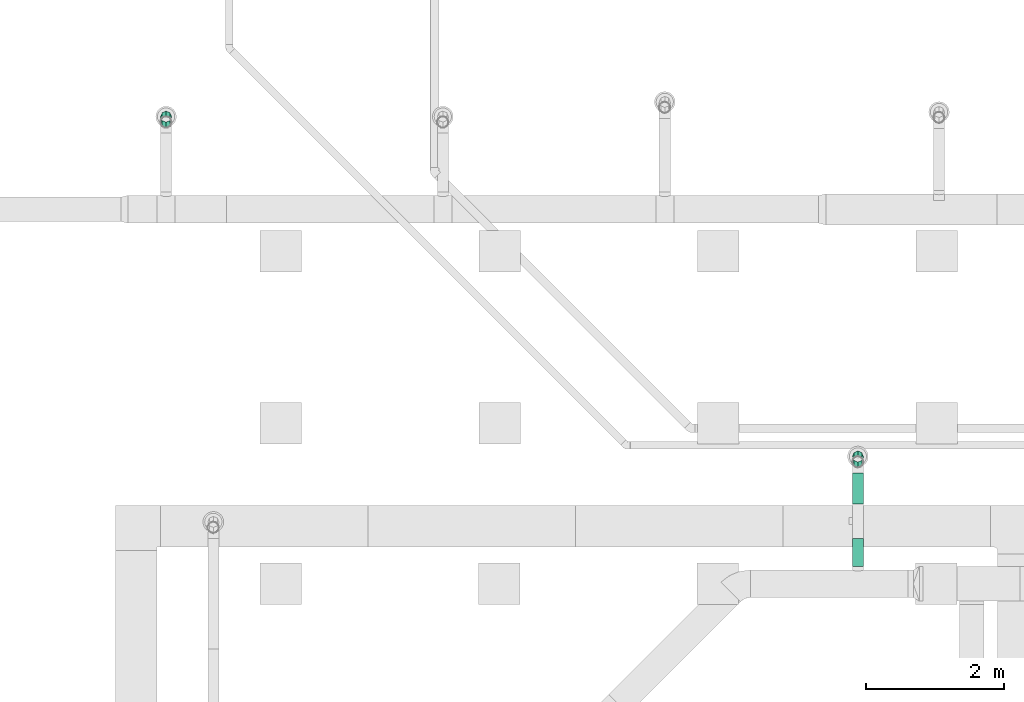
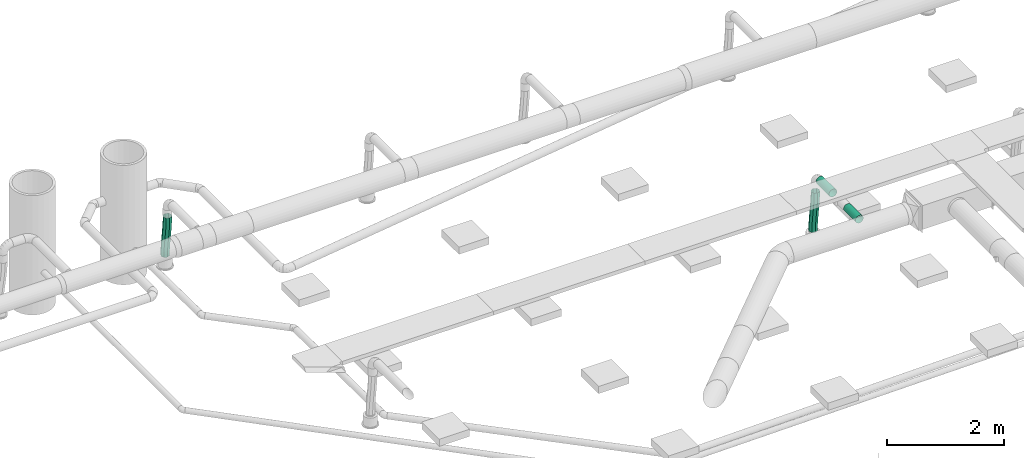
# One storey, part 306 of 374: 4 flow segments.
"""IFC2X3 building model written with IfcOpenShell, lengths in metres."""

from ifc_helpers import new_model, si_unit, direction, origin, place, context, subcontext, project, spatial, open_shell, surface_model, source, transform, mapped, element, save


model = new_model("IFC2X3")

# Units and contexts
model_context = context("Model", 3, precision=1e-05, world=origin(), true_north=direction((-0.4480736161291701, 0.8939966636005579)))
body_context = subcontext(model_context, "Body", "Model", "MODEL_VIEW")
ifc_project = project(units=[si_unit("LENGTHUNIT", "METRE"), si_unit("AREAUNIT", "SQUARE_METRE"), si_unit("VOLUMEUNIT", "CUBIC_METRE"), si_unit("PLANEANGLEUNIT", "RADIAN"), si_unit("THERMODYNAMICTEMPERATUREUNIT", "KELVIN"), si_unit("MASSUNIT", "GRAM", prefix="KILO"), si_unit("TIMEUNIT", "SECOND")], contexts=[model_context])

# Site, building, storey
site_placement = place(None, origin())
site = spatial("IfcSite", under=ifc_project, at=site_placement, Name="Site 1", CompositionType="ELEMENT")
building_placement = place(site_placement, origin())
building = spatial("IfcBuilding", under=site, at=building_placement, Name="Undefined", CompositionType="ELEMENT")
storey_placement = place(building_placement, origin())
storey = spatial("IfcBuildingStorey", under=building, at=storey_placement, Name="Rez de chauss\x8ee", CompositionType="ELEMENT", Elevation=0.0)

# Flow segments
shared_shape_1 = source(origin(), body_context, "Body", "SurfaceModel", [
    surface_model("IfcFaceBasedSurfaceModel", [(0.0, 0.020884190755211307, 0.0), (0.0, 0.0, 0.0), (0.4065297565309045, 0.0, 1.776356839e-15), (0.4065297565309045, 0.020884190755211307, 1.776356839e-15), (0.0, -0.020172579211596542, -0.005405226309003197), (0.4065297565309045, -0.020172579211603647, -0.005405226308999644), (0.0, -0.03825881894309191, -0.015847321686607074), (0.4065297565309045, -0.03825881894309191, -0.015847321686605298), (0.0, -0.05302617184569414, -0.0306146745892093), (0.4065297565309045, -0.05302617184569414, -0.030614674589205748), (0.0, -0.06346826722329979, -0.04870091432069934), (0.4065297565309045, -0.06346826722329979, -0.04870091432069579), (0.0, -0.06887349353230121, -0.06887349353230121), (0.4065297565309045, -0.06887349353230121, -0.06887349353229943), (0.0, -0.06887349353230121, -0.08975768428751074), (0.4065297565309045, -0.06887349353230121, -0.08975768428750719), (0.0, -0.06346826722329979, -0.10993026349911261), (0.4065297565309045, -0.06346826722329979, -0.10993026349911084), (0.0, -0.05302617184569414, -0.12801650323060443), (0.4065297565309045, -0.05302617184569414, -0.12801650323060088), (0.0, -0.038258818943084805, -0.14278385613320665), (0.4065297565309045, -0.03825881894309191, -0.14278385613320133), (0.0, -0.020172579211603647, -0.15322595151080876), (0.4065297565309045, -0.020172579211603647, -0.1532259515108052), (0.0, 7.105427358e-15, -0.15863117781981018), (0.4065297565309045, 0.0, -0.1586311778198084), (0.0, 0.020884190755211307, -0.15863117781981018), (0.4065297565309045, 0.020884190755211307, -0.1586311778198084), (0.0, 0.04105676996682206, -0.15322595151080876), (0.4065297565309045, 0.04105676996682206, -0.15322595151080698), (0.0, 0.05914300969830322, -0.1427838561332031), (0.4065297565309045, 0.05914300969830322, -0.1427838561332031), (0.0, 0.07391036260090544, -0.12801650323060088), (0.4065297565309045, 0.07391036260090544, -0.12801650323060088), (0.0, 0.0843524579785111, -0.10993026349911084), (0.4065297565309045, 0.08435245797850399, -0.10993026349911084), (0.0, 0.08975768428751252, -0.08975768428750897), (0.4065297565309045, 0.08975768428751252, -0.08975768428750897), (0.0, 0.08975768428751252, -0.06887349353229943), (0.4065297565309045, 0.08975768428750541, -0.06887349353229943), (0.0, 0.0843524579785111, -0.048700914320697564), (0.4065297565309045, 0.0843524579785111, -0.04870091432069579), (0.0, 0.07391036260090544, -0.030614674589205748), (0.4065297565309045, 0.07391036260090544, -0.030614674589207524), (0.0, 0.05914300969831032, -0.015847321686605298), (0.4065297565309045, 0.05914300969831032, -0.015847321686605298), (0.0, 0.04105676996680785, -0.005405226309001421), (0.4065297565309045, 0.041056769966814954, -0.005405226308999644)], [open_shell([[[0, 1, 2, 3]], [[1, 4, 5, 2]], [[4, 6, 7, 5]], [[6, 8, 9, 7]], [[8, 10, 11, 9]], [[10, 12, 13, 11]], [[12, 14, 15, 13]], [[14, 16, 17, 15]], [[16, 18, 19, 17]], [[18, 20, 21, 19]], [[20, 22, 23, 21]], [[22, 24, 25, 23]], [[24, 26, 27, 25]], [[26, 28, 29, 27]], [[28, 30, 31, 29]], [[30, 32, 33, 31]], [[32, 34, 35, 33]], [[34, 36, 37, 35]], [[36, 38, 39, 37]], [[38, 40, 41, 39]], [[40, 42, 43, 41]], [[42, 44, 45, 43]], [[44, 46, 47, 45]], [[46, 0, 3, 47]]])]),
])
flow_segment_1_placement = place(storey_placement, origin())
element("IfcFlowSegment", 1, at=flow_segment_1_placement, inside=storey, Name="Tube", ObjectType="Tube", context=body_context, shape_type="MappedRepresentation", body=[
    mapped(shared_shape_1, transform((44.313405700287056, 15.363573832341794, 3.877274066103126), x_axis=(0.0, 1.0, 0.0), y_axis=(-0.9914448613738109, 0.0, 0.1305261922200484), z_axis=(0.1305261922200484, 0.0, 0.9914448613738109))),
])
shared_shape_2 = source(origin(), body_context, "Body", "SurfaceModel", [
    surface_model("IfcFaceBasedSurfaceModel", [(0.09425708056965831, -3.552713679e-15, 0.0), (0.053566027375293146, 0.04575228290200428, 0.0), (0.0, 0.0, 0.0), (0.038940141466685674, -0.047251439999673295, -1.1507285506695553e-06), (-0.05541274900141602, -0.04404152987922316, 0.0010358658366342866), (-0.017993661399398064, -0.09250640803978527, 0.0010617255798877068), (-0.1124330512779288, -0.0867909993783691, 0.002911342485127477), (-0.07622095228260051, -0.13616419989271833, 0.002975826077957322), (-0.17075715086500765, -0.12862218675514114, 0.005426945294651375), (-0.13541835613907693, -0.178624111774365, 0.005528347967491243), (-0.23007333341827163, -0.16991458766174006, 0.008379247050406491), (-0.19526249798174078, -0.22028543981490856, 0.008506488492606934), (-0.2900642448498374, -0.21105506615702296, 0.011560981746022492), (-0.2554300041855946, -0.2615474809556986, 0.01169744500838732), (-0.3504083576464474, -0.2524386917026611, 0.014761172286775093), (-0.3155975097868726, -0.3028095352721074, 0.014888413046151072), (-0.41078046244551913, -0.29446897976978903, 0.017765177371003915), (-0.37544165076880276, -0.3444708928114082, 0.017866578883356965), (-0.470851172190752, -0.3375576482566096, 0.020354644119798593), (-0.4346390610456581, -0.38693083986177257, 0.020419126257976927), (-0.5302854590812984, -0.3821237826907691, 0.022307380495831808), (-0.4928663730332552, -0.4305886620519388, 0.022333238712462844), (-0.5887403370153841, -0.42859218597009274, 0.023397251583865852), (-0.5498002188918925, -0.4758436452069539, 0.0233960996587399), (-0.6458082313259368, -0.4773427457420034, 0.023394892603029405), (-0.6051172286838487, -0.5230950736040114, 0.023394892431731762), (0.02506154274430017, 0.0783427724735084, -0.04329419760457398), (-0.02777923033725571, 0.03321146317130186, -0.04329372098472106), (-0.08256193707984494, -0.010327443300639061, -0.042269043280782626), (-0.13908228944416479, -0.05270067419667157, -0.04040956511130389), (-0.19704465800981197, -0.09427143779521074, -0.03790925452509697), (-0.2561421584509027, -0.13541102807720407, -0.03496765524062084), (-0.3160599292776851, -0.17650115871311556, -0.03178973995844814), (-0.37647720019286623, -0.21793514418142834, -0.028585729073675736), (-0.43706799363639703, -0.26011824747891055, -0.025571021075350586), (-0.49750042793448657, -0.3034673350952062, -0.02296626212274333), (-0.5574346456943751, -0.34840969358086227, -0.020997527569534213), (-0.6165195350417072, -0.3953806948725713, -0.019896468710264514), (-0.6743126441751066, -0.44475219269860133, -0.01989930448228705), (0.02544116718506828, 0.07868040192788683, -0.10452143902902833), (-0.028124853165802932, 0.03292812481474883, -0.10452143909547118), (-0.08353759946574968, -0.011113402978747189, -0.10348557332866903), (-0.1405579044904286, -0.0538628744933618, -0.10161009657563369), (-0.19888201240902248, -0.09569406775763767, -0.09909449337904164), (-0.2581982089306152, -0.13698647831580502, -0.09614219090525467), (-0.3181891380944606, -0.1781269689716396, -0.09296045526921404), (-0.3785332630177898, -0.21951060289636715, -0.08976026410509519), (-0.438905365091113, -0.26154088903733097, -0.0867562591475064), (-0.4989760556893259, -0.3046295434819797, -0.08416679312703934), (-0.5584103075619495, -0.34919565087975, -0.08221405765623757), (-0.6168651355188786, -0.3956640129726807, -0.08112418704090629), (-0.673932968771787, -0.44441451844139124, -0.08112654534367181), (0.05448252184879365, 0.04656739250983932, -0.1478156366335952), (-0.0008344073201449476, -0.0006840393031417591, -0.14781678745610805), (-0.05776820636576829, -0.045939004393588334, -0.146753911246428), (-0.11599550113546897, -0.08959679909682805, -0.14483981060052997), (-0.17519291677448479, -0.13205671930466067, -0.1422872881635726), (-0.23503707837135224, -0.17371806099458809, -0.1393091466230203), (-0.29520460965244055, -0.21498011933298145, -0.13611818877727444), (-0.35537213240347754, -0.2562421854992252, -0.13292721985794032), (-0.4152162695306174, -0.2979035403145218, -0.12994905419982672), (-0.4744136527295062, -0.34036346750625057, -0.1273965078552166), (-0.5326409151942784, -0.3840212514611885, -0.12548239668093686), (-0.5895746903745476, -0.4292761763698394, -0.12441953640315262), (-0.6448916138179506, -0.4765275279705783, -0.12442074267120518), (0.09517357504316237, 0.0008151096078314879, -0.1478156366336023), (0.03810573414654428, -0.0479354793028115, -0.14781793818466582), (-0.02034911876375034, -0.09440388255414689, -0.14672805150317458), (-0.07978340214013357, -0.1389699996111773, -0.14477532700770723), (-0.13985412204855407, -0.18205864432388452, -0.14218588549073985), (-0.20022624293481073, -0.2240889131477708, -0.13918190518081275), (-0.2605703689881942, -0.26547253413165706, -0.13598172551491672), (-0.32056128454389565, -0.3066130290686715, -0.13279997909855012), (-0.37987745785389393, -0.347905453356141, -0.12984765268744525), (-0.4382015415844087, -0.38973665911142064, -0.12733202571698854), (-0.4952218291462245, -0.4324861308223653, -0.1254565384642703), (-0.5506345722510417, -0.47652763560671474, -0.12442068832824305), (-0.6042006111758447, -0.5222798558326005, -0.12442074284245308), (0.1236780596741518, -0.03177537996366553, -0.10452143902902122), (0.06588496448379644, -0.08114694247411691, -0.10452421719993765), (0.006800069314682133, -0.1281179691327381, -0.10342314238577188), (-0.053134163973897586, -0.17306032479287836, -0.10145441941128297), (-0.1135666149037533, -0.21640939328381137, -0.0988496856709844), (-0.17415741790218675, -0.25859247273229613, -0.09583500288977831), (-0.23457468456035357, -0.300026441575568, -0.09263100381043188), (-0.2944924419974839, -0.34111657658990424, -0.0894530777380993), (-0.35358992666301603, -0.38225618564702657, -0.08651145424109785), (-0.41155228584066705, -0.42382697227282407, -0.08401111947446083), (-0.4680726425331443, -0.4662002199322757, -0.08215163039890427), (-0.5228553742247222, -0.5097391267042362, -0.08112696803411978), (-0.575696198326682, -0.5548704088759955, -0.08112654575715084), (0.12329843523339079, -0.032113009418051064, -0.04329419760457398), (0.06623058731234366, -0.08086360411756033, -0.04329649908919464), (0.007775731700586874, -0.12733200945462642, -0.04220661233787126), (-0.05165854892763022, -0.17189812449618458, -0.04025388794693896), (-0.11172926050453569, -0.214986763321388, -0.03766444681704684), (-0.17210136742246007, -0.25701702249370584, -0.03466046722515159), (-0.23244547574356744, -0.298400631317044, -0.03146028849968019), (-0.2924363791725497, -0.3395411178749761, -0.028278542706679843), (-0.3517525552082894, -0.3808335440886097, -0.025326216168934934), (-0.4100766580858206, -0.42266476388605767, -0.022810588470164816), (-0.4670969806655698, -0.465414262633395, -0.02093510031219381), (-0.5225097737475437, -0.5094558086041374, -0.019899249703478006), (-0.5760758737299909, -0.5552080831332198, -0.01989930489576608)], [open_shell([[[0, 1, 2]], [[2, 3, 0]], [[3, 2, 4]], [[4, 5, 3]], [[5, 4, 6]], [[6, 7, 5]], [[7, 6, 8]], [[8, 9, 7]], [[9, 8, 10]], [[10, 11, 9]], [[11, 10, 12]], [[12, 13, 11]], [[13, 12, 14]], [[14, 15, 13]], [[15, 14, 16]], [[16, 17, 15]], [[17, 16, 18]], [[18, 19, 17]], [[19, 18, 20]], [[20, 21, 19]], [[21, 20, 22]], [[22, 23, 21]], [[23, 22, 24]], [[24, 25, 23]], [[1, 26, 27]], [[27, 2, 1]], [[2, 27, 28]], [[28, 4, 2]], [[4, 28, 29]], [[29, 6, 4]], [[6, 29, 30]], [[30, 8, 6]], [[8, 30, 31]], [[31, 10, 8]], [[10, 31, 32]], [[32, 12, 10]], [[12, 32, 33]], [[33, 14, 12]], [[14, 33, 34]], [[34, 16, 14]], [[16, 34, 35]], [[35, 18, 16]], [[18, 35, 36]], [[36, 20, 18]], [[20, 36, 37]], [[37, 22, 20]], [[22, 37, 38]], [[38, 24, 22]], [[26, 39, 40]], [[40, 27, 26]], [[27, 40, 41]], [[41, 28, 27]], [[28, 41, 42]], [[42, 29, 28]], [[29, 42, 43]], [[43, 30, 29]], [[30, 43, 44]], [[44, 31, 30]], [[31, 44, 45]], [[45, 32, 31]], [[32, 45, 46]], [[46, 33, 32]], [[33, 46, 47]], [[47, 34, 33]], [[34, 47, 48]], [[48, 35, 34]], [[35, 48, 49]], [[49, 36, 35]], [[36, 49, 50]], [[50, 37, 36]], [[37, 50, 51]], [[51, 38, 37]], [[39, 52, 53]], [[53, 40, 39]], [[40, 53, 54]], [[54, 41, 40]], [[41, 54, 55]], [[55, 42, 41]], [[42, 55, 56]], [[56, 43, 42]], [[43, 56, 57]], [[57, 44, 43]], [[44, 57, 58]], [[58, 45, 44]], [[45, 58, 59]], [[59, 46, 45]], [[46, 59, 60]], [[60, 47, 46]], [[47, 60, 61]], [[61, 48, 47]], [[48, 61, 62]], [[62, 49, 48]], [[49, 62, 63]], [[63, 50, 49]], [[50, 63, 64]], [[64, 51, 50]], [[52, 65, 66]], [[66, 53, 52]], [[53, 66, 67]], [[67, 54, 53]], [[54, 67, 68]], [[68, 55, 54]], [[55, 68, 69]], [[69, 56, 55]], [[56, 69, 70]], [[70, 57, 56]], [[57, 70, 71]], [[71, 58, 57]], [[58, 71, 72]], [[72, 59, 58]], [[59, 72, 73]], [[73, 60, 59]], [[60, 73, 74]], [[74, 61, 60]], [[61, 74, 75]], [[75, 62, 61]], [[62, 75, 76]], [[76, 63, 62]], [[63, 76, 77]], [[77, 64, 63]], [[65, 78, 79]], [[79, 66, 65]], [[66, 79, 80]], [[80, 67, 66]], [[67, 80, 81]], [[81, 68, 67]], [[68, 81, 82]], [[82, 69, 68]], [[69, 82, 83]], [[83, 70, 69]], [[70, 83, 84]], [[84, 71, 70]], [[71, 84, 85]], [[85, 72, 71]], [[72, 85, 86]], [[86, 73, 72]], [[73, 86, 87]], [[87, 74, 73]], [[74, 87, 88]], [[88, 75, 74]], [[75, 88, 89]], [[89, 76, 75]], [[76, 89, 90]], [[90, 77, 76]], [[78, 91, 92]], [[92, 79, 78]], [[79, 92, 93]], [[93, 80, 79]], [[80, 93, 94]], [[94, 81, 80]], [[81, 94, 95]], [[95, 82, 81]], [[82, 95, 96]], [[96, 83, 82]], [[83, 96, 97]], [[97, 84, 83]], [[84, 97, 98]], [[98, 85, 84]], [[85, 98, 99]], [[99, 86, 85]], [[86, 99, 100]], [[100, 87, 86]], [[87, 100, 101]], [[101, 88, 87]], [[88, 101, 102]], [[102, 89, 88]], [[89, 102, 103]], [[103, 90, 89]], [[91, 0, 3]], [[3, 92, 91]], [[92, 3, 5]], [[5, 93, 92]], [[93, 5, 7]], [[7, 94, 93]], [[94, 7, 9]], [[9, 95, 94]], [[95, 9, 11]], [[11, 96, 95]], [[96, 11, 13]], [[13, 97, 96]], [[97, 13, 15]], [[15, 98, 97]], [[98, 15, 17]], [[17, 99, 98]], [[99, 17, 19]], [[19, 100, 99]], [[100, 19, 21]], [[21, 101, 100]], [[101, 21, 23]], [[23, 102, 101]], [[102, 23, 25]], [[25, 103, 102]]])]),
])
flow_segment_2_placement = place(storey_placement, origin())
element("IfcFlowSegment", 2, at=flow_segment_2_placement, inside=storey, Name="Tube flexible", ObjectType="Tube flexible", context=body_context, shape_type="MappedRepresentation", body=[
    mapped(shared_shape_2, transform((44.2361316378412, 16.932330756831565, 3.4095708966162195), x_axis=(-0.24859099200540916, -0.6163532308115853, 0.7472022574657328), y_axis=(0.29104620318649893, 0.6882384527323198, 0.6645449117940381), z_axis=(-0.9238477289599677, 0.38267025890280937, 0.008297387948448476))),
])
shared_shape_3 = source(origin(), body_context, "Body", "SurfaceModel", [
    surface_model("IfcFaceBasedSurfaceModel", [(0.09425708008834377, 0.0, -3.552713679e-15), (0.05356602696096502, 0.04575228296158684, -3.552713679e-15), (0.0, 0.0, 0.0), (0.03894014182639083, -0.04725143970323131, -1.1507435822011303e-06), (-0.055412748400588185, -0.0440415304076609, 0.0010358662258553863), (-0.01799366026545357, -0.0925064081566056, 0.0010617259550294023), (-0.11243305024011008, -0.08679100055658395, 0.002911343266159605), (-0.07622095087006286, -0.13616420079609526, 0.002975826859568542), (-0.17075714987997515, -0.12862218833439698, 0.005426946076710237), (-0.1354183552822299, -0.1786241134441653, 0.00552834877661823), (-0.23007333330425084, -0.16991458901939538, 0.00837924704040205), (-0.1952624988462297, -0.2202854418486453, 0.00850648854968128), (-0.29006424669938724, -0.21105506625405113, 0.011560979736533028), (-0.25543000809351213, -0.2615474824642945, 0.011697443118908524), (-0.3504083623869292, -0.25243868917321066, 0.014761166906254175), (-0.31559751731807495, -0.3028095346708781, 0.01488840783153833), (-0.41078046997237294, -0.29446897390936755, 0.017765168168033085), (-0.37544166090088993, -0.34447088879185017, 0.01786656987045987), (-0.47085118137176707, -0.33755763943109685, 0.020354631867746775), (-0.4346390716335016, -0.38693083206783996, 0.020419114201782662), (-0.5302854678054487, -0.3821237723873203, 0.02230736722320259), (-0.4928663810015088, -0.4305886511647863, 0.022333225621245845), (-0.588740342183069, -0.4285921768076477, 0.02339724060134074), (-0.549800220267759, -0.4758436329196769, 0.023396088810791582), (-0.6458082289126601, -0.4773427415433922, 0.023394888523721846), (-0.6051172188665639, -0.5230950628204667, 0.02339488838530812), (0.025061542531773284, 0.07834277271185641, -0.04329419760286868), (-0.027779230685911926, 0.03321146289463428, -0.0432937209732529), (-0.08256193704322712, -0.010327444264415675, -0.04226904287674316), (-0.13908228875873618, -0.05270067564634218, -0.04040956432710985), (-0.19704465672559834, -0.09427143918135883, -0.03790925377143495), (-0.2561421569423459, -0.13541102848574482, -0.03496765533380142), (-0.3160599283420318, -0.17650115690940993, -0.0317897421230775), (-0.37647720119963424, -0.217935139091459, -0.028585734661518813), (-0.43706799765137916, -0.26011823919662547, -0.02557103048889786), (-0.49750043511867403, -0.3034673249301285, -0.022966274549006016), (-0.5574346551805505, -0.3484096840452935, -0.020997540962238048), (-0.6165195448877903, -0.3953806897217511, -0.019896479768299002), (-0.6743126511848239, -0.44475219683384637, -0.01989930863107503), (0.02544116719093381, 0.07868040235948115, -0.10452143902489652), (-0.028124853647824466, 0.03292812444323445, -0.10452143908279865), (-0.08353759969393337, -0.011113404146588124, -0.10348557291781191), (-0.14055790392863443, -0.05386287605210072, -0.1016100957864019), (-0.19888201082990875, -0.09569406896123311, -0.09909449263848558), (-0.2581982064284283, -0.13698647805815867, -0.09614219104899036), (-0.3181891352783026, -0.1781269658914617, -0.09296045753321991), (-0.3785332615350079, -0.21951059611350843, -0.08976026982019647), (-0.4389053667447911, -0.26154087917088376, -0.08675626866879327), (-0.4989760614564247, -0.3046295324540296, -0.08416680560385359), (-0.5584103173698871, -0.34919564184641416, -0.08221407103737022), (-0.6168651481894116, -0.3956640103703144, -0.08112419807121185), (-0.673932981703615, -0.4444145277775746, -0.08112654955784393), (0.05448252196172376, 0.04656739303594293, -0.1478156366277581), (-0.0008344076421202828, -0.0006840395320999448, -0.1478167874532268), (-0.05776820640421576, -0.045939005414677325, -0.14675391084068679), (-0.11599550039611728, -0.08959680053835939, -0.14483980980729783), (-0.17519291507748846, -0.13205672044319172, -0.14228728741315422), (-0.235037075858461, -0.17371806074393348, -0.1393091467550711), (-0.2952046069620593, -0.21498011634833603, -0.13611819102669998), (-0.35537213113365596, -0.25624217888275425, -0.13292722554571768), (-0.4152162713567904, -0.29790353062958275, -0.12994906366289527), (-0.47441365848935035, -0.34036345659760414, -0.12739652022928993), (-0.532640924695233, -0.3840212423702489, -0.125482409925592), (-0.5895747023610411, -0.4292761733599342, -0.12441954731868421), (-0.6448916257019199, -0.47652753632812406, -0.12442074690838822), (0.09517357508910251, 0.0008151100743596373, -0.1478156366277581), (0.038105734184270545, -0.04793547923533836, -0.14781793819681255), (-0.020349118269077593, -0.09440388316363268, -0.14672805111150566), (-0.07978340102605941, -0.1389700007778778, -0.14477532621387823), (-0.13985412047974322, -0.18205864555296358, -0.1421858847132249), (-0.20022624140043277, -0.22408891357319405, -0.13918190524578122), (-0.26057036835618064, -0.2654725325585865, -0.13598172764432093), (-0.32056128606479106, -0.3066130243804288, -0.13279998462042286), (-0.37987746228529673, -0.34790544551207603, -0.1298476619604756), (-0.43820154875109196, -0.38973664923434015, -0.12733203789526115), (-0.4952218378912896, -0.4324861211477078, -0.12545655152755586), (-0.5506345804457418, -0.47652762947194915, -0.1244206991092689), (-0.6042006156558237, -0.5222798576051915, -0.12442074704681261), (0.1236780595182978, -0.031775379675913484, -0.10452143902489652), (0.06588496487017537, -0.08114694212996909, -0.10452421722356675), (0.0068000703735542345, -0.12811796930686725, -0.10342314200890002), (-0.05313416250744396, -0.17306032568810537, -0.10145441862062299), (-0.11356661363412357, -0.21640939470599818, -0.09884968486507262), (-0.17415741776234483, -0.2585924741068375, -0.09583500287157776), (-0.23457468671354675, -0.3000264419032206, -0.0926310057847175), (-0.29449244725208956, -0.34111657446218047, -0.08945308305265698), (-0.35358993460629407, -0.38225618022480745, -0.08651146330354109), (-0.4115522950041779, -0.4238269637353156, -0.0840111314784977), (-0.4680726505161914, -0.46620020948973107, -0.08215164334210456), (-0.5228553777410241, -0.5097391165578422, -0.08112697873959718), (-0.5756961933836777, -0.5548704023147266, -0.08112654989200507), (0.12329843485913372, -0.03211300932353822, -0.043294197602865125), (0.06623058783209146, -0.08086360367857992, -0.04329649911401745), (0.007775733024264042, -0.1273320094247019, -0.042206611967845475), (-0.05165854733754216, -0.17189812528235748, -0.040253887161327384), (-0.11172925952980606, -0.214986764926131, -0.03766444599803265), (-0.17210136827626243, -0.25701702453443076, -0.034660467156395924), (-0.23244547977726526, -0.29840063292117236, -0.031460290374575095), (-0.2924363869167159, -0.3395411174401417, -0.028278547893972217), (-0.35175256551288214, -0.3808335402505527, -0.025326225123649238), (-0.4100766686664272, -0.422664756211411, -0.022810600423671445), (-0.4670969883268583, -0.4654142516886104, -0.020935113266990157), (-0.5225097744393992, -0.5094557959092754, -0.019899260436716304), (-0.5760758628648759, -0.555208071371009, -0.019899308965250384)], [open_shell([[[0, 1, 2]], [[2, 3, 0]], [[3, 2, 4]], [[4, 5, 3]], [[5, 4, 6]], [[6, 7, 5]], [[7, 6, 8]], [[8, 9, 7]], [[9, 8, 10]], [[10, 11, 9]], [[11, 10, 12]], [[12, 13, 11]], [[13, 12, 14]], [[14, 15, 13]], [[15, 14, 16]], [[16, 17, 15]], [[17, 16, 18]], [[18, 19, 17]], [[19, 18, 20]], [[20, 21, 19]], [[21, 20, 22]], [[22, 23, 21]], [[23, 22, 24]], [[24, 25, 23]], [[1, 26, 27]], [[27, 2, 1]], [[2, 27, 28]], [[28, 4, 2]], [[4, 28, 29]], [[29, 6, 4]], [[6, 29, 30]], [[30, 8, 6]], [[8, 30, 31]], [[31, 10, 8]], [[10, 31, 32]], [[32, 12, 10]], [[12, 32, 33]], [[33, 14, 12]], [[14, 33, 34]], [[34, 16, 14]], [[16, 34, 35]], [[35, 18, 16]], [[18, 35, 36]], [[36, 20, 18]], [[20, 36, 37]], [[37, 22, 20]], [[22, 37, 38]], [[38, 24, 22]], [[26, 39, 40]], [[40, 27, 26]], [[27, 40, 41]], [[41, 28, 27]], [[28, 41, 42]], [[42, 29, 28]], [[29, 42, 43]], [[43, 30, 29]], [[30, 43, 44]], [[44, 31, 30]], [[31, 44, 45]], [[45, 32, 31]], [[32, 45, 46]], [[46, 33, 32]], [[33, 46, 47]], [[47, 34, 33]], [[34, 47, 48]], [[48, 35, 34]], [[35, 48, 49]], [[49, 36, 35]], [[36, 49, 50]], [[50, 37, 36]], [[37, 50, 51]], [[51, 38, 37]], [[39, 52, 53]], [[53, 40, 39]], [[40, 53, 54]], [[54, 41, 40]], [[41, 54, 55]], [[55, 42, 41]], [[42, 55, 56]], [[56, 43, 42]], [[43, 56, 57]], [[57, 44, 43]], [[44, 57, 58]], [[58, 45, 44]], [[45, 58, 59]], [[59, 46, 45]], [[46, 59, 60]], [[60, 47, 46]], [[47, 60, 61]], [[61, 48, 47]], [[48, 61, 62]], [[62, 49, 48]], [[49, 62, 63]], [[63, 50, 49]], [[50, 63, 64]], [[64, 51, 50]], [[52, 65, 66]], [[66, 53, 52]], [[53, 66, 67]], [[67, 54, 53]], [[54, 67, 68]], [[68, 55, 54]], [[55, 68, 69]], [[69, 56, 55]], [[56, 69, 70]], [[70, 57, 56]], [[57, 70, 71]], [[71, 58, 57]], [[58, 71, 72]], [[72, 59, 58]], [[59, 72, 73]], [[73, 60, 59]], [[60, 73, 74]], [[74, 61, 60]], [[61, 74, 75]], [[75, 62, 61]], [[62, 75, 76]], [[76, 63, 62]], [[63, 76, 77]], [[77, 64, 63]], [[65, 78, 79]], [[79, 66, 65]], [[66, 79, 80]], [[80, 67, 66]], [[67, 80, 81]], [[81, 68, 67]], [[68, 81, 82]], [[82, 69, 68]], [[69, 82, 83]], [[83, 70, 69]], [[70, 83, 84]], [[84, 71, 70]], [[71, 84, 85]], [[85, 72, 71]], [[72, 85, 86]], [[86, 73, 72]], [[73, 86, 87]], [[87, 74, 73]], [[74, 87, 88]], [[88, 75, 74]], [[75, 88, 89]], [[89, 76, 75]], [[76, 89, 90]], [[90, 77, 76]], [[78, 91, 92]], [[92, 79, 78]], [[79, 92, 93]], [[93, 80, 79]], [[80, 93, 94]], [[94, 81, 80]], [[81, 94, 95]], [[95, 82, 81]], [[82, 95, 96]], [[96, 83, 82]], [[83, 96, 97]], [[97, 84, 83]], [[84, 97, 98]], [[98, 85, 84]], [[85, 98, 99]], [[99, 86, 85]], [[86, 99, 100]], [[100, 87, 86]], [[87, 100, 101]], [[101, 88, 87]], [[88, 101, 102]], [[102, 89, 88]], [[89, 102, 103]], [[103, 90, 89]], [[91, 0, 3]], [[3, 92, 91]], [[92, 3, 5]], [[5, 93, 92]], [[93, 5, 7]], [[7, 94, 93]], [[94, 7, 9]], [[9, 95, 94]], [[95, 9, 11]], [[11, 96, 95]], [[96, 11, 13]], [[13, 97, 96]], [[97, 13, 15]], [[15, 98, 97]], [[98, 15, 17]], [[17, 99, 98]], [[99, 17, 19]], [[19, 100, 99]], [[100, 19, 21]], [[21, 101, 100]], [[101, 21, 23]], [[23, 102, 101]], [[102, 23, 25]], [[25, 103, 102]]])]),
])
flow_segment_3_placement = place(storey_placement, origin())
element("IfcFlowSegment", 3, at=flow_segment_3_placement, inside=storey, Name="Tube flexible", ObjectType="Tube flexible", context=body_context, shape_type="MappedRepresentation", body=[
    mapped(shared_shape_3, transform((34.23672092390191, 21.84498383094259, 3.4095708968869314), x_axis=(-0.24859098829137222, -0.6163532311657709, 0.7472022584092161), y_axis=(0.29104620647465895, 0.6882384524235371, 0.664544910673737), z_axis=(-0.923847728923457, 0.38267025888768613, 0.008297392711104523))),
])
shared_shape_4 = source(origin(), body_context, "Body", "SurfaceModel", [
    surface_model("IfcFaceBasedSurfaceModel", [(0.0, 0.020884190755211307, 0.0), (0.0, 0.0, 0.0), (0.44413151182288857, -4.4408921e-16, 0.0), (0.44413151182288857, 0.020884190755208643, -7.105427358e-15), (0.0, -0.020172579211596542, -0.005405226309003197), (0.44413151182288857, -0.020172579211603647, -0.005405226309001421), (0.0, -0.03825881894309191, -0.015847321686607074), (0.44413151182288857, -0.038258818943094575, -0.015847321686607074), (0.0, -0.05302617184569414, -0.0306146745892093), (0.44413151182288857, -0.0530261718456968, -0.030614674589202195), (0.0, -0.06346826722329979, -0.04870091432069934), (0.44413151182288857, -0.06346826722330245, -0.048700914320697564), (0.0, -0.06887349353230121, -0.06887349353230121), (0.44413151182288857, -0.0688734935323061, -0.06887349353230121), (0.0, -0.06887349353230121, -0.08975768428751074), (0.44413151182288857, -0.06887349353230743, -0.08975768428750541), (0.0, -0.06346826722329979, -0.10993026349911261), (0.44413151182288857, -0.06346826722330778, -0.10993026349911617), (0.0, -0.05302617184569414, -0.12801650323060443), (0.44413151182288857, -0.053026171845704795, -0.12801650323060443), (0.0, -0.038258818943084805, -0.14278385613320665), (0.44413151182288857, -0.038258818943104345, -0.14278385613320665), (0.0, -0.020172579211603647, -0.15322595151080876), (0.44413151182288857, -0.02017257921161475, -0.1532259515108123), (0.0, 7.105427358e-15, -0.15863117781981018), (0.44413151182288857, -1.2434497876e-14, -0.15863117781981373), (0.0, 0.020884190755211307, -0.15863117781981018), (0.44413151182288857, 0.020884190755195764, -0.15863117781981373), (0.0, 0.04105676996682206, -0.15322595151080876), (0.44413151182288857, 0.04105676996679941, -0.1532259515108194), (0.0, 0.05914300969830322, -0.1427838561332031), (0.44413151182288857, 0.05914300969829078, -0.14278385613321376), (0.0, 0.07391036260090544, -0.12801650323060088), (0.44413151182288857, 0.07391036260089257, -0.12801650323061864), (0.0, 0.0843524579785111, -0.10993026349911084), (0.44413151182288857, 0.08435245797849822, -0.10993026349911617), (0.0, 0.08975768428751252, -0.08975768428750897), (0.44413151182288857, 0.08975768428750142, -0.08975768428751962), (0.0, 0.08975768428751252, -0.06887349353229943), (0.44413151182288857, 0.08975768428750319, -0.06887349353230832), (0.0, 0.0843524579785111, -0.048700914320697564), (0.44413151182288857, 0.08435245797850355, -0.04870091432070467), (0.0, 0.07391036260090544, -0.030614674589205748), (0.44413151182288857, 0.073910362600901, -0.030614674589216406), (0.0, 0.05914300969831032, -0.015847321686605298), (0.44413151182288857, 0.05914300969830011, -0.01584732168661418), (0.0, 0.04105676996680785, -0.005405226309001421), (0.44413151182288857, 0.04105676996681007, -0.005405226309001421)], [open_shell([[[0, 1, 2, 3]], [[1, 4, 5, 2]], [[4, 6, 7, 5]], [[6, 8, 9, 7]], [[8, 10, 11, 9]], [[10, 12, 13, 11]], [[12, 14, 15, 13]], [[14, 16, 17, 15]], [[16, 18, 19, 17]], [[18, 20, 21, 19]], [[20, 22, 23, 21]], [[22, 24, 25, 23]], [[24, 26, 27, 25]], [[26, 28, 29, 27]], [[28, 30, 31, 29]], [[30, 32, 33, 31]], [[32, 34, 35, 33]], [[34, 36, 37, 35]], [[36, 38, 39, 37]], [[38, 40, 41, 39]], [[40, 42, 43, 41]], [[42, 44, 45, 43]], [[44, 46, 47, 45]], [[46, 0, 3, 47]]])]),
])
flow_segment_4_placement = place(storey_placement, origin())
element("IfcFlowSegment", 4, at=flow_segment_4_placement, inside=storey, Name="Tube", ObjectType="Tube", context=body_context, shape_type="MappedRepresentation", body=[
    mapped(shared_shape_4, transform((44.21542611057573, 16.714235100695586, 3.779294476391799), x_axis=(0.0, -1.0, 0.0), y_axis=(-0.13052619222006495, 0.0, 0.9914448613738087), z_axis=(-0.9914448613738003, 0.0, -0.13052619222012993))),
])

save(model, "model.ifc")
